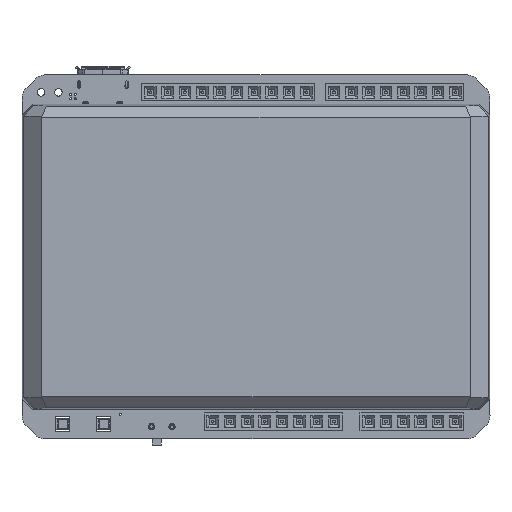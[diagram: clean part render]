
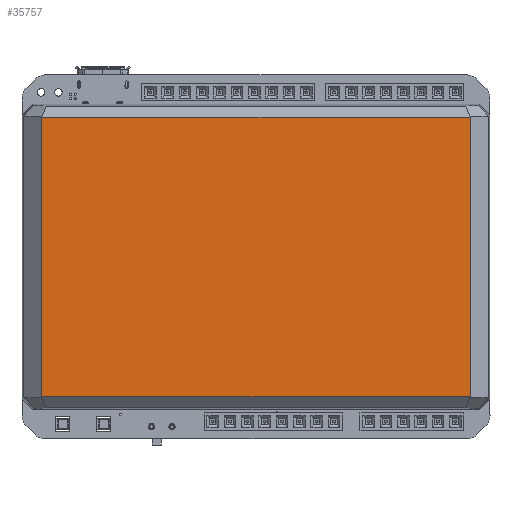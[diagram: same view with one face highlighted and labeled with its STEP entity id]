
A CAD part, front view. The second image highlights one B-rep face of the part: STEP entity #35757.
In plain terms, the highlighted planar face has unit normal (0, -1, 0) as drawn and (0, 0, 1) by its records, which use the part's own axes.
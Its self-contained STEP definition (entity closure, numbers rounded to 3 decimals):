
#1122 = EDGE_LOOP ( 'NONE', ( #7850, #31171, #5655, #48954 ) ) ;
#3392 = VECTOR ( 'NONE', #25067, 1000. ) ;
#5477 = DIRECTION ( 'NONE',  ( 0., 1., 0. ) ) ;
#5655 = ORIENTED_EDGE ( 'NONE', *, *, #36917, .T. ) ;
#7850 = ORIENTED_EDGE ( 'NONE', *, *, #12812, .T. ) ;
#8410 = EDGE_CURVE ( 'NONE', #39395, #61074, #45875, .T. ) ;
#8669 = EDGE_CURVE ( 'NONE', #21221, #20652, #56544, .T. ) ;
#11773 = VECTOR ( 'NONE', #56798, 1000. ) ;
#12812 = EDGE_CURVE ( 'NONE', #20652, #39395, #22739, .T. ) ;
#12962 = CARTESIAN_POINT ( 'NONE',  ( 65.651, 6.172, 8.5 ) ) ;
#17315 = CARTESIAN_POINT ( 'NONE',  ( 0., 0., 8.5 ) ) ;
#19949 = AXIS2_PLACEMENT_3D ( 'NONE', #17315, #46129, #22778 ) ;
#20152 = LINE ( 'NONE', #29796, #33022 ) ;
#20652 = VERTEX_POINT ( 'NONE', #30648 ) ;
#21221 = VERTEX_POINT ( 'NONE', #25867 ) ;
#22659 = CARTESIAN_POINT ( 'NONE',  ( 2.929, 6.172, 8.5 ) ) ;
#22739 = LINE ( 'NONE', #53965, #48580 ) ;
#22778 = DIRECTION ( 'NONE',  ( -1., 0., 0. ) ) ;
#25067 = DIRECTION ( 'NONE',  ( -1., 0., 0. ) ) ;
#25867 = CARTESIAN_POINT ( 'NONE',  ( 65.651, 47.168, 8.5 ) ) ;
#29796 = CARTESIAN_POINT ( 'NONE',  ( 65.651, 0., 8.5 ) ) ;
#30648 = CARTESIAN_POINT ( 'NONE',  ( 2.929, 47.168, 8.5 ) ) ;
#31171 = ORIENTED_EDGE ( 'NONE', *, *, #8410, .T. ) ;
#33022 = VECTOR ( 'NONE', #5477, 1000. ) ;
#35757 = ADVANCED_FACE ( 'NONE', ( #48484 ), #49993, .F. ) ;
#36917 = EDGE_CURVE ( 'NONE', #61074, #21221, #20152, .T. ) ;
#39395 = VERTEX_POINT ( 'NONE', #22659 ) ;
#45875 = LINE ( 'NONE', #61873, #11773 ) ;
#46129 = DIRECTION ( 'NONE',  ( 0., 0., -1. ) ) ;
#48484 = FACE_OUTER_BOUND ( 'NONE', #1122, .T. ) ;
#48580 = VECTOR ( 'NONE', #48663, 1000. ) ;
#48663 = DIRECTION ( 'NONE',  ( 0., -1., 0. ) ) ;
#48954 = ORIENTED_EDGE ( 'NONE', *, *, #8669, .T. ) ;
#49993 = PLANE ( 'NONE',  #19949 ) ;
#53965 = CARTESIAN_POINT ( 'NONE',  ( 2.929, 0., 8.5 ) ) ;
#56544 = LINE ( 'NONE', #58857, #3392 ) ;
#56798 = DIRECTION ( 'NONE',  ( 1., 0., 0. ) ) ;
#58857 = CARTESIAN_POINT ( 'NONE',  ( 0., 47.168, 8.5 ) ) ;
#61074 = VERTEX_POINT ( 'NONE', #12962 ) ;
#61873 = CARTESIAN_POINT ( 'NONE',  ( 0., 6.172, 8.5 ) ) ;
